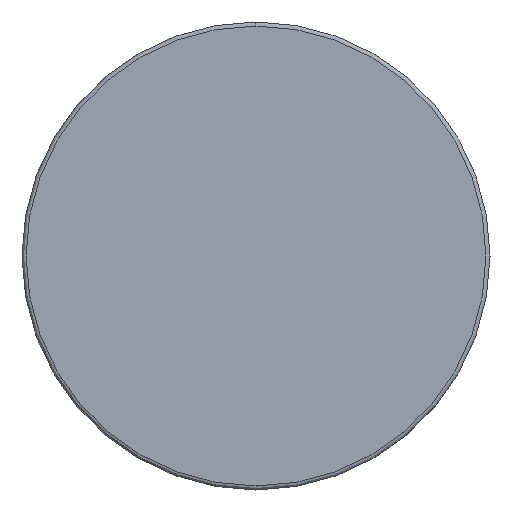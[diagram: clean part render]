
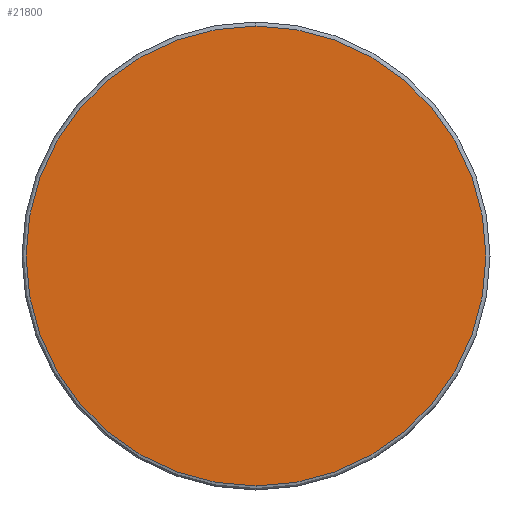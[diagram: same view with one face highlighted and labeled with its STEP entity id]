
A CAD part, front view. The second image highlights one B-rep face of the part: STEP entity #21800.
In plain terms, the highlighted planar face has unit normal (0, -1, 0).
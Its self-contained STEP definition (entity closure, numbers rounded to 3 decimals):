
#21676=CARTESIAN_POINT('',(0.,-279.9,0.));
#21677=DIRECTION('',(0.,-1.,0.));
#21678=DIRECTION('',(0.,0.,1.));
#21679=AXIS2_PLACEMENT_3D('',#21676,#21677,#21678);
#21681=CARTESIAN_POINT('',(0.,-279.9,0.));
#21682=DIRECTION('',(0.,-1.,0.));
#21683=DIRECTION('',(0.,0.,-1.));
#21684=AXIS2_PLACEMENT_3D('',#21681,#21682,#21683);
#21703=CARTESIAN_POINT('',(0.,-279.9,11.291));
#21704=CARTESIAN_POINT('',(0.,-279.9,-11.291));
#21705=VERTEX_POINT('',#21703);
#21706=VERTEX_POINT('',#21704);
#21790=CARTESIAN_POINT('',(0.,-279.9,0.));
#21791=DIRECTION('',(0.,1.,0.));
#21792=DIRECTION('',(0.,0.,1.));
#21793=AXIS2_PLACEMENT_3D('',#21790,#21791,#21792);
#21794=PLANE('',#21793);
#21796=ORIENTED_EDGE('',*,*,#21795,.F.);
#21797=ORIENTED_EDGE('',*,*,#21780,.F.);
#21798=EDGE_LOOP('',(#21796,#21797));
#21799=FACE_OUTER_BOUND('',#21798,.F.);
#21680=CIRCLE('',#21679,11.291);
#21685=CIRCLE('',#21684,11.291);
#21780=EDGE_CURVE('',#21706,#21705,#21685,.T.);
#21795=EDGE_CURVE('',#21705,#21706,#21680,.T.);
#21800=ADVANCED_FACE('',(#21799),#21794,.F.);
